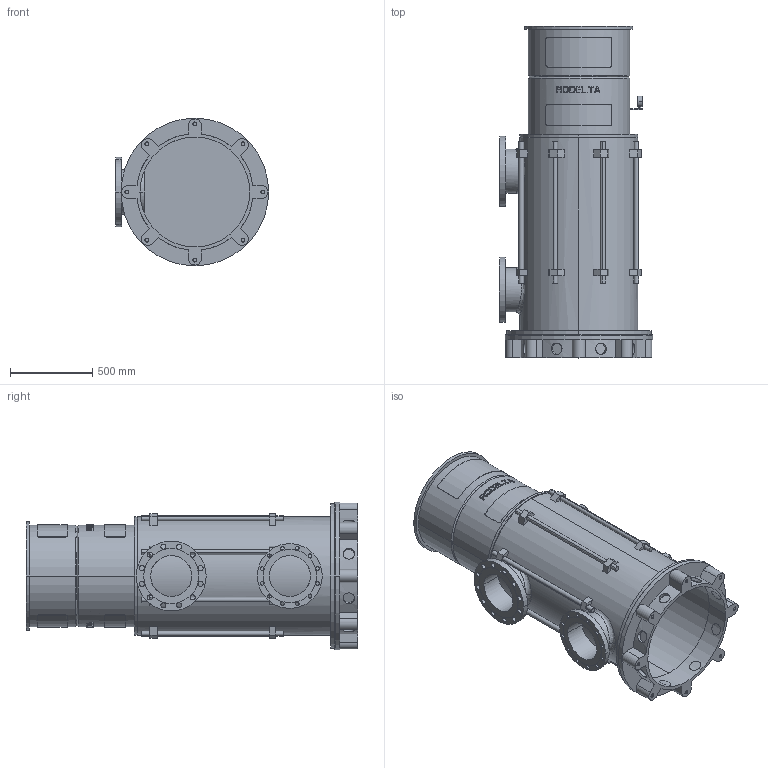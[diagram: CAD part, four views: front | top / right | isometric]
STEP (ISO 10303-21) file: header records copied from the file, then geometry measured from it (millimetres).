
FILE_DESCRIPTION((''),'2;1');
FILE_NAME('LS10_2TR_0GR_P_PN25','2025-10-20T13:16:43',('Lyritlocal'),(''),'CREO PARAMETRIC BY PTC INC, 2022014','CREO PARAMETRIC BY PTC INC, 2022014','');
FILE_SCHEMA(('CONFIG_CONTROL_DESIGN'));
Length unit declared in the file: millimetre
Products named in the file (1): LS10_2TR_0GR_P_PN25
Bounding box: 935 x 2023 x 900 mm (x, y, z)
Volume: 90798634.6 mm3; surface area: 12391793.5 mm2
Topology: 3 solids, 11 shells, 752 faces, 1934 edges, 1288 vertices
Faces by surface type: plane 462, cylinder 274, cone 12, bspline 4
Entity records: 24328 total; most frequent: CARTESIAN_POINT 5982, ORIENTED_EDGE 3836, DIRECTION 3662, EDGE_CURVE 1934, AXIS2_PLACEMENT_3D 1381, VERTEX_POINT 1288, EDGE_LOOP 924, VECTOR 900
